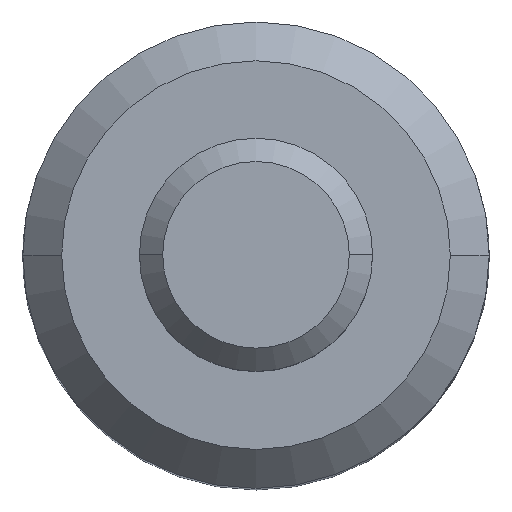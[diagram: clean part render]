
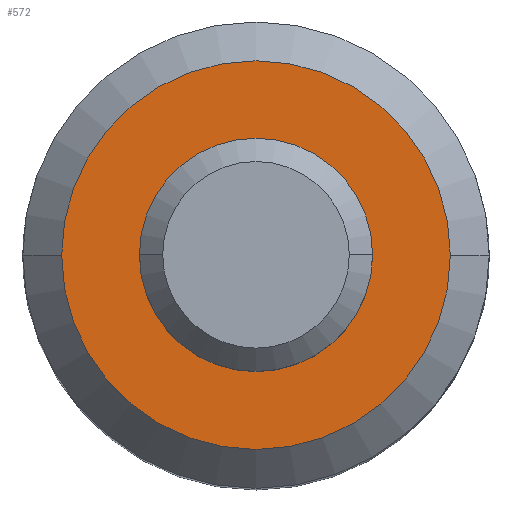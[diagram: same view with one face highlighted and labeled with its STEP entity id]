
A CAD part, top view. The second image highlights one B-rep face of the part: STEP entity #572.
In plain terms, the highlighted planar face has unit normal (0, 0, 1).
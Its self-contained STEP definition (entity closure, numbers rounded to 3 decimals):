
#8 = CIRCLE ( 'NONE', #358, 1.1 ) ;
#33 = ORIENTED_EDGE ( 'NONE', *, *, #309, .T. ) ;
#53 = VERTEX_POINT ( 'NONE', #504 ) ;
#66 = CARTESIAN_POINT ( 'NONE',  ( -35.804, 29.778, 8.45 ) ) ;
#80 = DIRECTION ( 'NONE',  ( 0., 0., 1. ) ) ;
#83 = VERTEX_POINT ( 'NONE', #167 ) ;
#85 = AXIS2_PLACEMENT_3D ( 'NONE', #700, #682, #564 ) ;
#105 = CIRCLE ( 'NONE', #872, 2.5 ) ;
#106 = FACE_BOUND ( 'NONE', #850, .T. ) ;
#111 = EDGE_CURVE ( 'NONE', #83, #891, #105, .T. ) ;
#167 = CARTESIAN_POINT ( 'NONE',  ( -38.304, 29.778, 8.45 ) ) ;
#220 = CIRCLE ( 'NONE', #616, 2.5 ) ;
#238 = CARTESIAN_POINT ( 'NONE',  ( -35.804, 29.778, 8.45 ) ) ;
#275 = CARTESIAN_POINT ( 'NONE',  ( -36.904, 29.778, 8.45 ) ) ;
#278 = DIRECTION ( 'NONE',  ( 1., 0., 0. ) ) ;
#309 = EDGE_CURVE ( 'NONE', #891, #83, #220, .T. ) ;
#324 = PLANE ( 'NONE',  #650 ) ;
#358 = AXIS2_PLACEMENT_3D ( 'NONE', #786, #80, #278 ) ;
#381 = DIRECTION ( 'NONE',  ( 1., 0., 0. ) ) ;
#383 = DIRECTION ( 'NONE',  ( 1., 0., 0. ) ) ;
#454 = DIRECTION ( 'NONE',  ( 0., 0., 1. ) ) ;
#455 = EDGE_CURVE ( 'NONE', #698, #53, #8, .T. ) ;
#472 = DIRECTION ( 'NONE',  ( 0., 0., 1. ) ) ;
#483 = CIRCLE ( 'NONE', #85, 1.1 ) ;
#504 = CARTESIAN_POINT ( 'NONE',  ( -34.704, 29.778, 8.45 ) ) ;
#516 = DIRECTION ( 'NONE',  ( 0., 0., 1. ) ) ;
#564 = DIRECTION ( 'NONE',  ( 1., 0., 0. ) ) ;
#572 = ADVANCED_FACE ( 'NONE', ( #599, #106 ), #324, .T. ) ;
#578 = ORIENTED_EDGE ( 'NONE', *, *, #731, .F. ) ;
#599 = FACE_OUTER_BOUND ( 'NONE', #764, .T. ) ;
#616 = AXIS2_PLACEMENT_3D ( 'NONE', #66, #472, #885 ) ;
#625 = ORIENTED_EDGE ( 'NONE', *, *, #111, .T. ) ;
#650 = AXIS2_PLACEMENT_3D ( 'NONE', #801, #454, #381 ) ;
#682 = DIRECTION ( 'NONE',  ( 0., 0., 1. ) ) ;
#692 = ORIENTED_EDGE ( 'NONE', *, *, #455, .F. ) ;
#698 = VERTEX_POINT ( 'NONE', #275 ) ;
#700 = CARTESIAN_POINT ( 'NONE',  ( -35.804, 29.778, 8.45 ) ) ;
#731 = EDGE_CURVE ( 'NONE', #53, #698, #483, .T. ) ;
#764 = EDGE_LOOP ( 'NONE', ( #625, #33 ) ) ;
#786 = CARTESIAN_POINT ( 'NONE',  ( -35.804, 29.778, 8.45 ) ) ;
#801 = CARTESIAN_POINT ( 'NONE',  ( -35.804, 29.778, 8.45 ) ) ;
#850 = EDGE_LOOP ( 'NONE', ( #692, #578 ) ) ;
#853 = CARTESIAN_POINT ( 'NONE',  ( -33.304, 29.778, 8.45 ) ) ;
#872 = AXIS2_PLACEMENT_3D ( 'NONE', #238, #516, #383 ) ;
#885 = DIRECTION ( 'NONE',  ( 1., 0., 0. ) ) ;
#891 = VERTEX_POINT ( 'NONE', #853 ) ;
